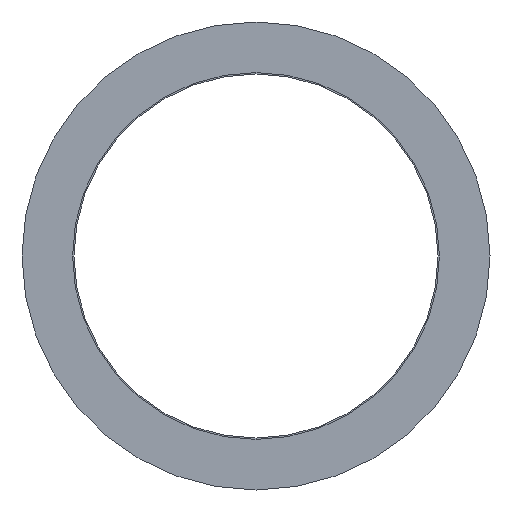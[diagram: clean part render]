
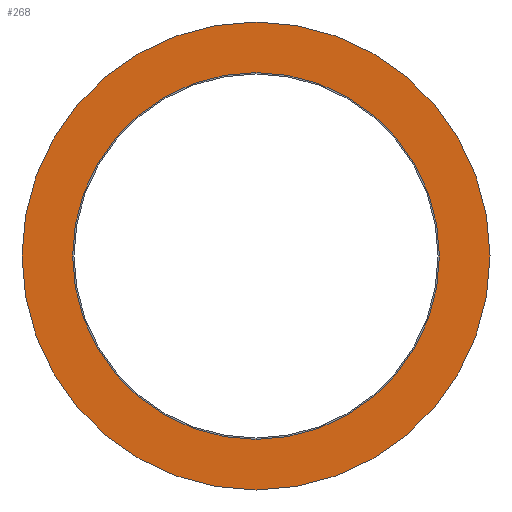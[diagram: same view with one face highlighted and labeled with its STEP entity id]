
A CAD part, left-side view. The second image highlights one B-rep face of the part: STEP entity #268.
In plain terms, the highlighted planar face has unit normal (-1, 0, 0).
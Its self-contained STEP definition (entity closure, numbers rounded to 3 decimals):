
#5 = EDGE_LOOP ( 'NONE', ( #237, #89 ) ) ;
#19 = DIRECTION ( 'NONE',  ( 0., 0., -1. ) ) ;
#25 = VERTEX_POINT ( 'NONE', #356 ) ;
#46 = CIRCLE ( 'NONE', #50, 9. ) ;
#50 = AXIS2_PLACEMENT_3D ( 'NONE', #368, #330, #99 ) ;
#53 = CARTESIAN_POINT ( 'NONE',  ( -2.866, -0.027, -9. ) ) ;
#69 = EDGE_CURVE ( 'NONE', #74, #249, #340, .T. ) ;
#73 = CARTESIAN_POINT ( 'NONE',  ( -2.866, -0.027, 0. ) ) ;
#74 = VERTEX_POINT ( 'NONE', #236 ) ;
#83 = EDGE_CURVE ( 'NONE', #398, #25, #379, .T. ) ;
#84 = CARTESIAN_POINT ( 'NONE',  ( -2.866, -0.027, 0. ) ) ;
#89 = ORIENTED_EDGE ( 'NONE', *, *, #69, .T. ) ;
#90 = CIRCLE ( 'NONE', #333, 7.055 ) ;
#96 = ORIENTED_EDGE ( 'NONE', *, *, #123, .F. ) ;
#99 = DIRECTION ( 'NONE',  ( 0., 0., -1. ) ) ;
#123 = EDGE_CURVE ( 'NONE', #25, #398, #46, .T. ) ;
#139 = DIRECTION ( 'NONE',  ( 0., 0., 1. ) ) ;
#165 = EDGE_LOOP ( 'NONE', ( #403, #96 ) ) ;
#172 = FACE_OUTER_BOUND ( 'NONE', #165, .T. ) ;
#188 = EDGE_CURVE ( 'NONE', #249, #74, #90, .T. ) ;
#193 = PLANE ( 'NONE',  #255 ) ;
#211 = DIRECTION ( 'NONE',  ( 0., 0., -1. ) ) ;
#228 = DIRECTION ( 'NONE',  ( -1., 0., 0. ) ) ;
#236 = CARTESIAN_POINT ( 'NONE',  ( -2.866, -0.027, 7.055 ) ) ;
#237 = ORIENTED_EDGE ( 'NONE', *, *, #188, .T. ) ;
#241 = CARTESIAN_POINT ( 'NONE',  ( -2.866, -0.027, 0. ) ) ;
#249 = VERTEX_POINT ( 'NONE', #298 ) ;
#255 = AXIS2_PLACEMENT_3D ( 'NONE', #241, #228, #139 ) ;
#263 = CARTESIAN_POINT ( 'NONE',  ( -2.866, -0.027, 0. ) ) ;
#268 = ADVANCED_FACE ( 'NONE', ( #332, #172 ), #193, .T. ) ;
#298 = CARTESIAN_POINT ( 'NONE',  ( -2.866, -0.027, -7.055 ) ) ;
#299 = AXIS2_PLACEMENT_3D ( 'NONE', #263, #334, #211 ) ;
#311 = DIRECTION ( 'NONE',  ( 1., 0., 0. ) ) ;
#315 = AXIS2_PLACEMENT_3D ( 'NONE', #84, #311, #19 ) ;
#330 = DIRECTION ( 'NONE',  ( 1., 0., 0. ) ) ;
#332 = FACE_BOUND ( 'NONE', #5, .T. ) ;
#333 = AXIS2_PLACEMENT_3D ( 'NONE', #73, #354, #352 ) ;
#334 = DIRECTION ( 'NONE',  ( 1., 0., 0. ) ) ;
#340 = CIRCLE ( 'NONE', #299, 7.055 ) ;
#352 = DIRECTION ( 'NONE',  ( 0., 0., -1. ) ) ;
#354 = DIRECTION ( 'NONE',  ( 1., 0., 0. ) ) ;
#356 = CARTESIAN_POINT ( 'NONE',  ( -2.866, -0.027, 9. ) ) ;
#368 = CARTESIAN_POINT ( 'NONE',  ( -2.866, -0.027, 0. ) ) ;
#379 = CIRCLE ( 'NONE', #315, 9. ) ;
#398 = VERTEX_POINT ( 'NONE', #53 ) ;
#403 = ORIENTED_EDGE ( 'NONE', *, *, #83, .F. ) ;
